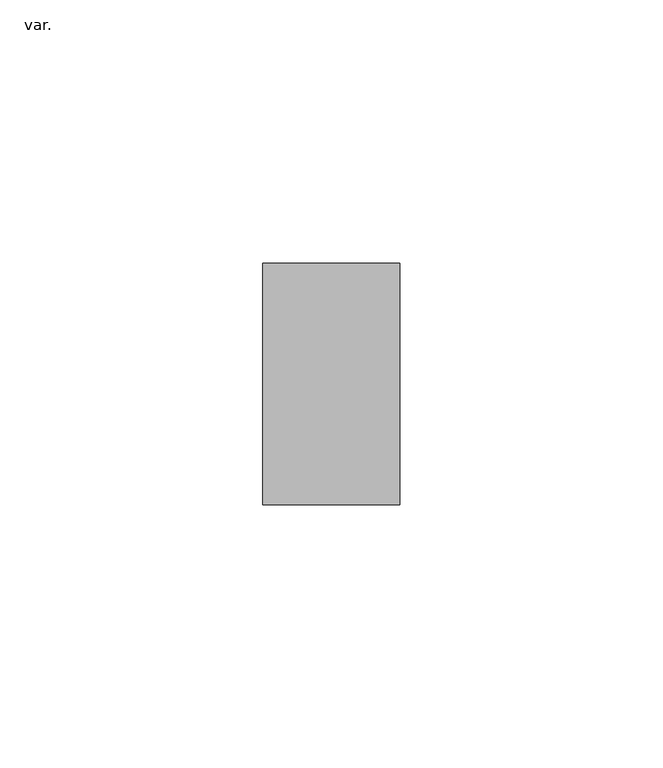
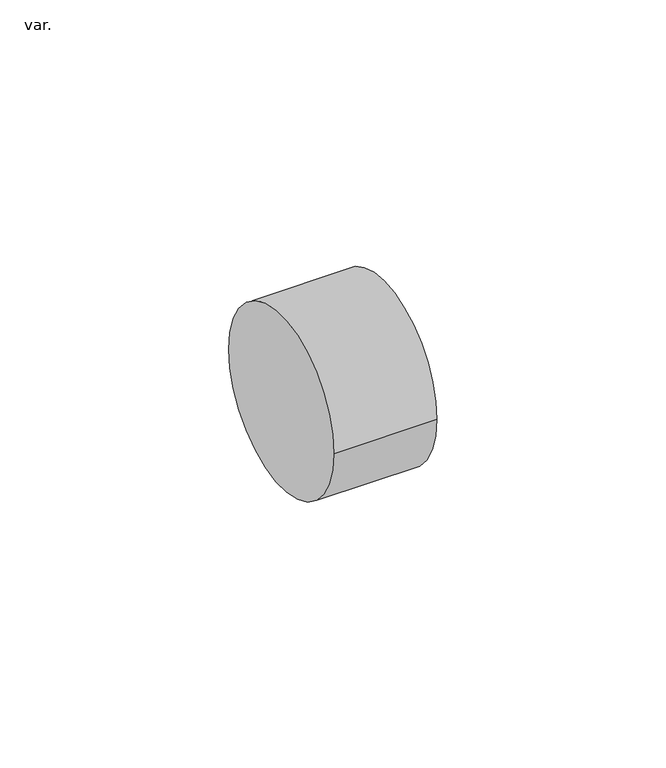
"""IFC4 building model written with IfcOpenShell, lengths in millimetres: pipe fitting geometry, Wavin SiTech+ Z_DO_NOT_USE_Transition Reducer Rubber : var.."""

import ifcopenshell
import ifcopenshell.guid

model = None  # the IFC model being written
_history = None  # IfcOwnerHistory: only IFC2X3 demands one
_inside = {}  # id of a spatial element -> (the spatial element, [elements in it])
_under = {}  # id of a project, library or spatial element -> (it, [spatial elements below it])
_declared = {}  # id of a project -> (the project, [libraries it declares])
_typed = {}  # id of a type object -> (the type object, [elements of that type])
_made_of = {}  # id of a material, layer set ... -> (it, [elements and type objects made of it])


def new_model(schema):
    """Start an empty IFC model of exactly this schema.

    Asked for "IFC4X3", IfcOpenShell would pick the latest addendum, in which some entities
    have other attributes; the version numbers below select the first issue.
    IFC2X3 requires an IfcOwnerHistory on every rooted entity: one is made here for all.
    """
    global model, _history
    if schema == "IFC4X3":
        model = ifcopenshell.file(schema_version=(4, 3, 0, 0))
    else:
        model = ifcopenshell.file(schema=schema)
    _inside.clear()
    _under.clear()
    _declared.clear()
    _typed.clear()
    _made_of.clear()
    _history = None
    if model.schema == "IFC2X3":
        org = make("IfcOrganization", Name="unknown")
        user = make(
            "IfcPersonAndOrganization",
            ThePerson=make("IfcPerson", FamilyName="unknown"),
            TheOrganization=org,
        )
        app = make(
            "IfcApplication",
            ApplicationDeveloper=org,
            Version="unknown",
            ApplicationFullName="unknown",
            ApplicationIdentifier="unknown",
        )
        _history = make(
            "IfcOwnerHistory",
            OwningUser=user,
            OwningApplication=app,
            ChangeAction="ADDED",
            CreationDate=0,
        )
    return model


def make(cls, **values):
    """One entity of the class cls with the attributes given. An attribute that is None is left unset."""
    return model.create_entity(
        cls, **{name: value for name, value in values.items() if value is not None}
    )


def rooted(cls, **values):
    """An entity with a GlobalId (a new one), such as an element, a storey or a relation."""
    return make(cls, GlobalId=ifcopenshell.guid.new(), OwnerHistory=_history, **values)


def si_unit(unit_type, name, prefix=None):
    """IfcSIUnit, for example si_unit("LENGTHUNIT", "METRE", prefix="MILLI")."""
    return make("IfcSIUnit", UnitType=unit_type, Prefix=prefix, Name=name)


def assignment(units):
    """IfcUnitAssignment: the units of a project."""
    return None if units is None else make("IfcUnitAssignment", Units=units)


def point(xyz):
    """IfcCartesianPoint."""
    return None if xyz is None else make("IfcCartesianPoint", Coordinates=xyz)


def direction(xyz):
    """IfcDirection."""
    return None if xyz is None else make("IfcDirection", DirectionRatios=xyz)


def frame(location, z_axis=None, x_axis=None):
    """IfcAxis2Placement3D, a coordinate frame: its origin and axes. An axis left out is left unset."""
    return make(
        "IfcAxis2Placement3D",
        Location=point(location),
        Axis=direction(z_axis),
        RefDirection=direction(x_axis),
    )


def frame_2d(location, x_axis=None):
    """IfcAxis2Placement2D, a coordinate frame in the plane: its origin and x axis."""
    return make(
        "IfcAxis2Placement2D", Location=point(location), RefDirection=direction(x_axis)
    )


def origin():
    """The frame at (0, 0, 0) with its axes left unset."""
    return frame((0.0, 0.0, 0.0))


def origin_2d():
    """The frame at (0, 0) in the plane with its x axis left unset."""
    return frame_2d((0.0, 0.0))


def place(relative_to, where):
    """IfcLocalPlacement: puts the frame where relative to a parent placement (None: the world)."""
    return make(
        "IfcLocalPlacement", PlacementRelTo=relative_to, RelativePlacement=where
    )


def context(
    kind, dimensions, precision=None, world=None, true_north=None, identifier=None
):
    """IfcGeometricRepresentationContext, for example the 3D "Model" context."""
    return make(
        "IfcGeometricRepresentationContext",
        ContextIdentifier=identifier,
        ContextType=kind,
        CoordinateSpaceDimension=dimensions,
        Precision=precision,
        WorldCoordinateSystem=world,
        TrueNorth=true_north,
    )


def project(units=None, contexts=None):
    """IfcProject with its units and contexts."""
    return rooted(
        "IfcProject",
        Name="project",
        RepresentationContexts=contexts,
        UnitsInContext=assignment(units),
    )


def spatial(cls, under=None, at=None, **own):
    """A site, building, storey or space (cls), placed at a placement, below another one or the project."""
    s = rooted(cls, ObjectPlacement=at, **own)
    if under is not None:
        _under.setdefault(under.id(), (under, []))[1].append(s)
    return s


def circle_curve(where, radius):
    """IfcCircle in the frame where."""
    return make("IfcCircle", Position=where, Radius=radius)


def trimmed(basis, trim1, trim2, sense, master):
    """IfcTrimmedCurve: the piece of a basis curve between two trims."""
    return make(
        "IfcTrimmedCurve",
        BasisCurve=basis,
        Trim1=trim1,
        Trim2=trim2,
        SenseAgreement=sense,
        MasterRepresentation=master,
    )


def segment(curve, same_sense, transition):
    """IfcCompositeCurveSegment."""
    return make(
        "IfcCompositeCurveSegment",
        Transition=transition,
        SameSense=same_sense,
        ParentCurve=curve,
    )


def composite_curve(segments, self_intersect=None):
    """IfcCompositeCurve: segments joined end to end."""
    return make("IfcCompositeCurve", Segments=segments, SelfIntersect=self_intersect)


def outline(outer, holes=None, kind="AREA"):
    """IfcArbitraryClosedProfileDef: a profile drawn as a closed curve; with holes, ...WithVoids."""
    if holes is None:
        return make("IfcArbitraryClosedProfileDef", ProfileType=kind, OuterCurve=outer)
    return make(
        "IfcArbitraryProfileDefWithVoids",
        ProfileType=kind,
        OuterCurve=outer,
        InnerCurves=holes,
    )


def extrude(swept, where, along, depth):
    """IfcExtrudedAreaSolid: the profile swept, set in the frame where, extruded along a direction by depth."""
    return make(
        "IfcExtrudedAreaSolid",
        SweptArea=swept,
        Position=where,
        ExtrudedDirection=direction(along),
        Depth=depth,
    )


def shape(context_of_items, identifier, shape_type, items):
    """IfcShapeRepresentation: the items that make up one representation, for example the "Body"."""
    return make(
        "IfcShapeRepresentation",
        ContextOfItems=context_of_items,
        RepresentationIdentifier=identifier,
        RepresentationType=shape_type,
        Items=items,
    )


def source(mapping_origin, context_of_items, identifier, shape_type, items):
    """IfcRepresentationMap: a shape defined once, which mapped items show again and again."""
    return make(
        "IfcRepresentationMap",
        MappingOrigin=mapping_origin,
        MappedRepresentation=shape(context_of_items, identifier, shape_type, items),
    )


def transform(
    local_origin,
    x_axis=None,
    y_axis=None,
    z_axis=None,
    scale=None,
    scale2=None,
    scale3=None,
    uniform=True,
):
    """IfcCartesianTransformationOperator3D, or its non-uniform kind. x_axis, y_axis, z_axis: its Axis1, 2, 3."""
    if uniform:
        return make(
            "IfcCartesianTransformationOperator3D",
            Axis1=direction(x_axis),
            Axis2=direction(y_axis),
            LocalOrigin=point(local_origin),
            Scale=scale,
            Axis3=direction(z_axis),
        )
    return make(
        "IfcCartesianTransformationOperator3DnonUniform",
        Axis1=direction(x_axis),
        Axis2=direction(y_axis),
        LocalOrigin=point(local_origin),
        Scale=scale,
        Axis3=direction(z_axis),
        Scale2=scale2,
        Scale3=scale3,
    )


def mapped(mapping_source, mapping_target):
    """IfcMappedItem: shows the shape of a source again, moved by a transform."""
    return make(
        "IfcMappedItem", MappingSource=mapping_source, MappingTarget=mapping_target
    )


def made_of(thing, what):
    """Note that an element or type object is made of a material, layer set ...; save() writes the relation."""
    if what is not None:
        _made_of.setdefault(what.id(), (what, []))[1].append(thing)
    return thing


def element(
    cls,
    number,
    at=None,
    inside=None,
    cuts=None,
    type_object=None,
    material=None,
    context=None,
    identifier="Body",
    shape_type=None,
    held_by="IfcProductDefinitionShape",
    body=None,
    shapes=None,
    **own,
):
    """One element of the class cls, such as IfcWall. Its Tag is "e" and its number.

    at: its placement. inside: the storey or other place that contains it. cuts: it is an
    opening in that element (IfcRelVoidsElement). A single representation is given by context,
    identifier, shape_type and body (its items); several are given by shapes. held_by: the class
    of the entity that holds the representations. save() writes the other relations.
    """
    e = rooted(cls, Tag="e%d" % number, ObjectPlacement=at, **own)
    if body is not None:
        shapes = [shape(context, identifier, shape_type, body)]
    if shapes is not None:
        e.Representation = make(held_by, Representations=shapes)
    if inside is not None:
        _inside.setdefault(inside.id(), (inside, []))[1].append(e)
    if cuts is not None:
        rooted(
            "IfcRelVoidsElement", RelatingBuildingElement=cuts, RelatedOpeningElement=e
        )
    if type_object is not None:
        _typed.setdefault(type_object.id(), (type_object, []))[1].append(e)
    return made_of(e, material)


def aggregate(whole, parts):
    """IfcRelAggregates: a whole, such as a stair, and the parts it consists of."""
    return rooted("IfcRelAggregates", RelatingObject=whole, RelatedObjects=parts)


def save(model, path):
    """Write the relations noted so far, then the file.

    IfcRelAggregates (storeys below a building ...), IfcRelContainedInSpatialStructure (elements
    in a storey), IfcRelDefinesByType, IfcRelAssociatesMaterial and IfcRelDeclares: one each for
    every whole, place, type object, material and project.
    """
    for whole, parts in _under.values():
        aggregate(whole, parts)
    for where, things in _inside.values():
        rooted(
            "IfcRelContainedInSpatialStructure",
            RelatedElements=things,
            RelatingStructure=where,
        )
    for kind, things in _typed.values():
        rooted("IfcRelDefinesByType", RelatedObjects=things, RelatingType=kind)
    for what, things in _made_of.values():
        rooted("IfcRelAssociatesMaterial", RelatedObjects=things, RelatingMaterial=what)
    for by, libraries in _declared.values():
        rooted("IfcRelDeclares", RelatingContext=by, RelatedDefinitions=libraries)
    model.write(path)


def var_99ec99a2(model_context):
    return source(origin(), model_context, "Body", "SweptSolid", [
        extrude(outline(composite_curve([segment(trimmed(circle_curve(origin_2d(), 23.0), [point((-23.0, 0.0))], [point((23.0, 0.0))], False, "CARTESIAN"), True, "CONTINUOUS"), segment(trimmed(circle_curve(origin_2d(), 23.0), [point((23.0, 0.0))], [point((-23.0, 0.0))], False, "CARTESIAN"), True, "CONTINUOUS")], self_intersect=False)), frame((0.0, 0.0, 0.0), z_axis=(1.0, 0.0, 0.0), x_axis=(0.0, 1.0, 0.0)), (0.0, 0.0, 1.0), 26.0),
    ])


if __name__ == "__main__":
    model = new_model("IFC4")
    model_context = context("Model", 3, world=origin())
    ifc_project = project(units=[si_unit("LENGTHUNIT", "METRE", prefix="MILLI")], contexts=[model_context])
    site = spatial("IfcSite", under=ifc_project)
    building = spatial("IfcBuilding", under=site)
    placement = place(None, origin())
    var_shape = var_99ec99a2(model_context)
    element("IfcPipeFitting", 1, ObjectType="Wavin SiTech+ Z_DO_NOT_USE_Transition Reducer Rubber : var.", at=placement, inside=building, context=model_context, shape_type="MappedRepresentation", body=[
        mapped(var_shape, transform((0.0, 0.0, 0.0), x_axis=(1.0, 0.0, 0.0), y_axis=(0.0, 1.0, 0.0), z_axis=(0.0, 0.0, 1.0))),
    ])
    save(model, "model.ifc")
